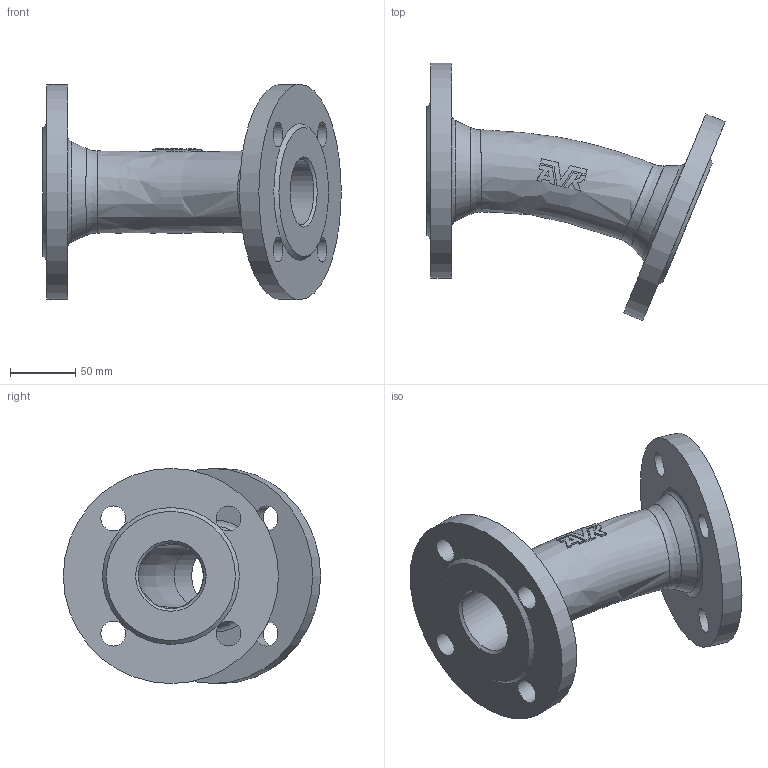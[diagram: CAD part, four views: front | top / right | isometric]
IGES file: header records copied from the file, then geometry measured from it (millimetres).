
Start section: SolidWorks IGES file using analytic representation for surfaces
Global section: file name: \\avksan2\techshare\PBM outline export from Enovia\O_712_0210_DN50_1X_REV01.igs; native system: SolidWorks 2022; preprocessor: SolidWorks 2022; author: pbm; date: 240816.113321; units: millimetre
Bounding box: 228.88 x 197.37 x 165 mm (x, y, z)
Surface area: 159213.9 mm2 (no closed solid volume)
Topology: 0 solids, 0 shells, 71 faces, 338 edges, 314 vertices
Faces by surface type: bspline 43, revolution 28
